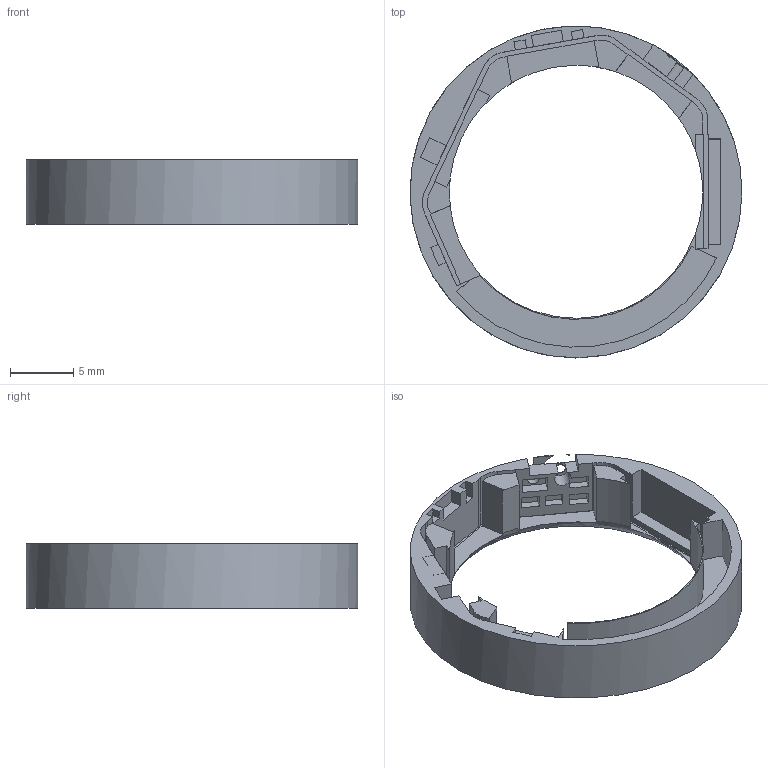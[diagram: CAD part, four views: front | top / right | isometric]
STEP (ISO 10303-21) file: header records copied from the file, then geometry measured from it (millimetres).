
FILE_DESCRIPTION(('FreeCAD Model'),'2;1');
FILE_NAME('Open CASCADE Shape Model','2026-10-23T21:15:57',('FreeCAD'),( 'FreeCAD'),'Open CASCADE STEP processor 7.8','FreeCAD','Unknown');
FILE_SCHEMA(('AUTOMOTIVE_DESIGN { 1 0 10303 214 1 1 1 1 }'));
Length unit declared in the file: millimetre
Products named in the file (1): Open CASCADE STEP translator 7.8 22
Bounding box: 26.18 x 26.18 x 5.05 mm (x, y, z)
Volume: 642 mm3; surface area: 1626.1 mm2
Topology: 2 solids, 2 shells, 181 faces, 507 edges, 336 vertices
Faces by surface type: plane 158, cylinder 22, revolution 1
Full cylindrical faces by diameter (mm): 0.8 x1, 1 x1, 26.18 x1
Entity records: 6070 total; most frequent: CARTESIAN_POINT 1378, ORIENTED_EDGE 1014, DIRECTION 895, EDGE_CURVE 507, LINE 432, VECTOR 432, VERTEX_POINT 336, AXIS2_PLACEMENT_3D 231
